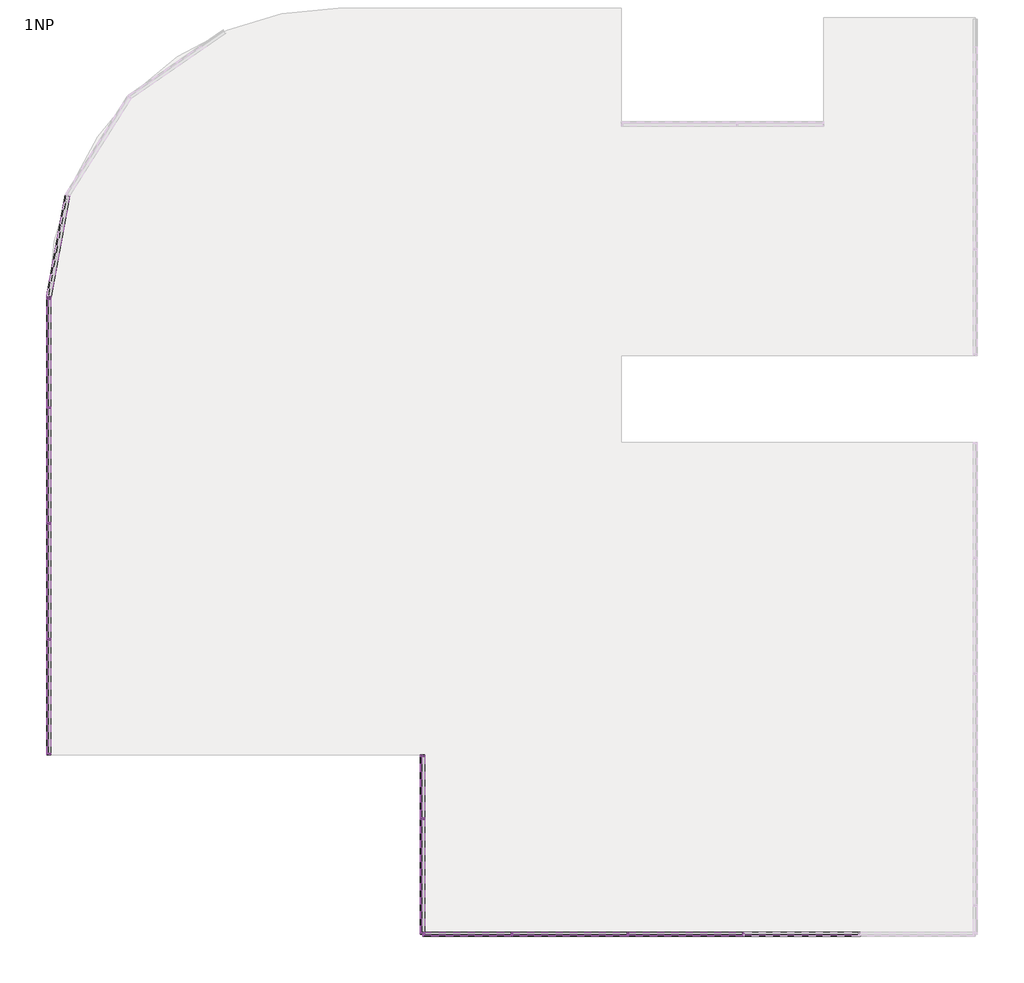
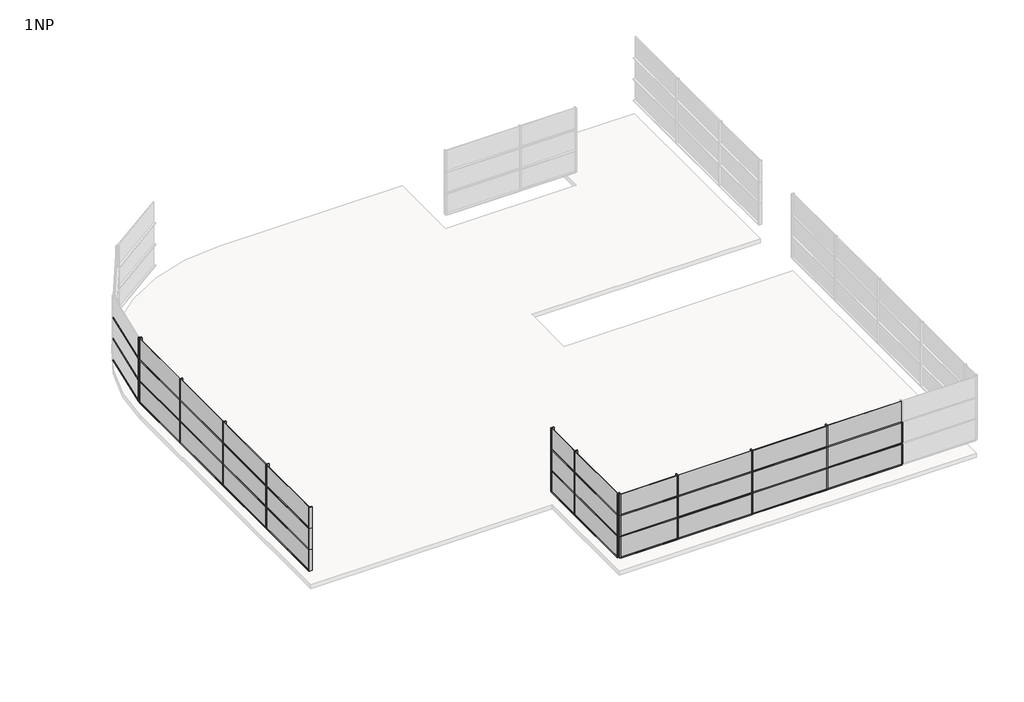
# One storey, part 1 of 4: 73 members, 30 plates.
"""IFC4 building model written with IfcOpenShell, lengths in millimetres."""

from ifc_helpers import new_model, si_unit, origin, place, context, project, spatial, transform, mapped, element, save
from components import rectangular_mullion_50_x_150mm_d99dc9be, rectangular_mullion_50_x_150mm_6588f46c, rectangular_mullion_50_x_150mm_a037c29c, rectangular_mullion_50_x_150mm_c2546fd4, rectangular_mullion_50_x_150mm_cd873b1a, rectangular_mullion_50_x_150mm_642c3999, rectangular_mullion_50_x_150mm_d9fe8572, rectangular_mullion_50_x_150mm_f56f8a9a, system_panel_glazed_8e9402eb, system_panel_glazed_89ac83a7, system_panel_glazed_2dc425e2, system_panel_glazed_da5fadb4, system_panel_glazed_3a708ec0

model = new_model("IFC4")

# Units and contexts
model_context = context("Model", 3, world=origin())
ifc_project = project(units=[si_unit("LENGTHUNIT", "METRE", prefix="MILLI")], contexts=[model_context])

# Site, building, storey
site = spatial("IfcSite", under=ifc_project)
building = spatial("IfcBuilding", under=site)
storey = spatial("IfcBuildingStorey", under=building, Name="1NP", Elevation=4000.0)

# Members
placement = place(None, origin())
rectangular_mullion_50_x_150mm_shape = rectangular_mullion_50_x_150mm_d99dc9be(model_context)
element("IfcMember", 1, ObjectType="Rectangular Mullion : 50 x 150mm", at=placement, inside=storey, context=model_context, shape_type="MappedRepresentation", body=[
    mapped(rectangular_mullion_50_x_150mm_shape, transform((9503.2660975, -23624.0160434, 6000.0), x_axis=(-1.0, 0.0, 0.0), y_axis=(0.0, -1.0, 0.0), z_axis=(0.0, 0.0, 1.0))),
])
element("IfcMember", 2, ObjectType="Rectangular Mullion : 50 x 150mm", at=placement, inside=storey, context=model_context, shape_type="MappedRepresentation", body=[
    mapped(rectangular_mullion_50_x_150mm_shape, transform((9503.2660975, -23624.0160434, 7200.0), x_axis=(-1.0, 0.0, 0.0), y_axis=(0.0, -1.0, 0.0), z_axis=(0.0, 0.0, 1.0))),
])
element("IfcMember", 3, ObjectType="Rectangular Mullion : 50 x 150mm", at=placement, inside=storey, context=model_context, shape_type="MappedRepresentation", body=[
    mapped(rectangular_mullion_50_x_150mm_shape, transform((5503.2660975, -23624.0160434, 6000.0), x_axis=(-1.0, 0.0, 0.0), y_axis=(0.0, -1.0, 0.0), z_axis=(0.0, 0.0, 1.0))),
])
element("IfcMember", 4, ObjectType="Rectangular Mullion : 50 x 150mm", at=placement, inside=storey, context=model_context, shape_type="MappedRepresentation", body=[
    mapped(rectangular_mullion_50_x_150mm_shape, transform((5503.2660975, -23624.0160434, 7200.0), x_axis=(-1.0, 0.0, 0.0), y_axis=(0.0, -1.0, 0.0), z_axis=(0.0, 0.0, 1.0))),
])
element("IfcMember", 5, ObjectType="Rectangular Mullion : 50 x 150mm", at=placement, inside=storey, context=model_context, shape_type="MappedRepresentation", body=[
    mapped(rectangular_mullion_50_x_150mm_shape, transform((5503.2660975, -23624.0160434, 8400.0), x_axis=(-1.0, 0.0, 0.0), y_axis=(0.0, -1.0, 0.0), z_axis=(0.0, 0.0, 1.0))),
])
element("IfcMember", 6, ObjectType="Rectangular Mullion : 50 x 150mm", at=placement, inside=storey, context=model_context, shape_type="MappedRepresentation", body=[
    mapped(rectangular_mullion_50_x_150mm_shape, transform((1503.2660975, -23624.0160434, 6000.0), x_axis=(-1.0, 0.0, 0.0), y_axis=(0.0, -1.0, 0.0), z_axis=(0.0, 0.0, 1.0))),
])
element("IfcMember", 7, ObjectType="Rectangular Mullion : 50 x 150mm", at=placement, inside=storey, context=model_context, shape_type="MappedRepresentation", body=[
    mapped(rectangular_mullion_50_x_150mm_shape, transform((1503.2660975, -23624.0160434, 7200.0), x_axis=(-1.0, 0.0, 0.0), y_axis=(0.0, -1.0, 0.0), z_axis=(0.0, 0.0, 1.0))),
])
element("IfcMember", 8, ObjectType="Rectangular Mullion : 50 x 150mm", at=placement, inside=storey, context=model_context, shape_type="MappedRepresentation", body=[
    mapped(rectangular_mullion_50_x_150mm_shape, transform((1503.2660975, -23624.0160434, 8400.0), x_axis=(-1.0, 0.0, 0.0), y_axis=(0.0, -1.0, 0.0), z_axis=(0.0, 0.0, 1.0))),
])
element("IfcMember", 9, ObjectType="Rectangular Mullion : 50 x 150mm", at=placement, inside=storey, context=model_context, shape_type="MappedRepresentation", body=[
    mapped(rectangular_mullion_50_x_150mm_shape, transform((-2496.7339025, -23624.0160434, 6000.0), x_axis=(-1.0, 0.0, 0.0), y_axis=(0.0, -1.0, 0.0), z_axis=(0.0, 0.0, 1.0))),
])
element("IfcMember", 10, ObjectType="Rectangular Mullion : 50 x 150mm", at=placement, inside=storey, context=model_context, shape_type="MappedRepresentation", body=[
    mapped(rectangular_mullion_50_x_150mm_shape, transform((-2496.7339025, -23624.0160434, 7200.0), x_axis=(-1.0, 0.0, 0.0), y_axis=(0.0, -1.0, 0.0), z_axis=(0.0, 0.0, 1.0))),
])
element("IfcMember", 11, ObjectType="Rectangular Mullion : 50 x 150mm", at=placement, inside=storey, context=model_context, shape_type="MappedRepresentation", body=[
    mapped(rectangular_mullion_50_x_150mm_shape, transform((-2496.7339025, -23624.0160434, 8400.0), x_axis=(-1.0, 0.0, 0.0), y_axis=(0.0, -1.0, 0.0), z_axis=(0.0, 0.0, 1.0))),
])
element("IfcMember", 12, ObjectType="Rectangular Mullion : 50 x 150mm", at=placement, inside=storey, context=model_context, shape_type="MappedRepresentation", body=[
    mapped(rectangular_mullion_50_x_150mm_shape, transform((-5587.173406, -19624.0160434, 6000.0), x_axis=(0.0, 1.0, 0.0), y_axis=(-1.0, 0.0, 0.0), z_axis=(0.0, 0.0, 1.0))),
])
element("IfcMember", 13, ObjectType="Rectangular Mullion : 50 x 150mm", at=placement, inside=storey, context=model_context, shape_type="MappedRepresentation", body=[
    mapped(rectangular_mullion_50_x_150mm_shape, transform((-5587.173406, -19624.0160434, 7200.0), x_axis=(0.0, 1.0, 0.0), y_axis=(-1.0, 0.0, 0.0), z_axis=(0.0, 0.0, 1.0))),
])
element("IfcMember", 14, ObjectType="Rectangular Mullion : 50 x 150mm", at=placement, inside=storey, context=model_context, shape_type="MappedRepresentation", body=[
    mapped(rectangular_mullion_50_x_150mm_shape, transform((-5587.173406, -19624.0160434, 8400.0), x_axis=(0.0, 1.0, 0.0), y_axis=(-1.0, 0.0, 0.0), z_axis=(0.0, 0.0, 1.0))),
])
element("IfcMember", 15, ObjectType="Rectangular Mullion : 50 x 150mm", at=placement, inside=storey, context=model_context, shape_type="MappedRepresentation", body=[
    mapped(rectangular_mullion_50_x_150mm_shape, transform((-18496.7339025, -13423.5291324, 6000.0), x_axis=(0.0, 1.0, 0.0), y_axis=(-1.0, 0.0, 0.0), z_axis=(0.0, 0.0, 1.0))),
])
element("IfcMember", 16, ObjectType="Rectangular Mullion : 50 x 150mm", at=placement, inside=storey, context=model_context, shape_type="MappedRepresentation", body=[
    mapped(rectangular_mullion_50_x_150mm_shape, transform((-18496.7339025, -13423.5291324, 7200.0), x_axis=(0.0, 1.0, 0.0), y_axis=(-1.0, 0.0, 0.0), z_axis=(0.0, 0.0, 1.0))),
])
element("IfcMember", 17, ObjectType="Rectangular Mullion : 50 x 150mm", at=placement, inside=storey, context=model_context, shape_type="MappedRepresentation", body=[
    mapped(rectangular_mullion_50_x_150mm_shape, transform((-18496.7339025, -13423.5291324, 8400.0), x_axis=(0.0, 1.0, 0.0), y_axis=(-1.0, 0.0, 0.0), z_axis=(0.0, 0.0, 1.0))),
])
element("IfcMember", 18, ObjectType="Rectangular Mullion : 50 x 150mm", at=placement, inside=storey, context=model_context, shape_type="MappedRepresentation", body=[
    mapped(rectangular_mullion_50_x_150mm_shape, transform((-18496.7339025, -9423.5291324, 6000.0), x_axis=(0.0, 1.0, 0.0), y_axis=(-1.0, 0.0, 0.0), z_axis=(0.0, 0.0, 1.0))),
])
element("IfcMember", 19, ObjectType="Rectangular Mullion : 50 x 150mm", at=placement, inside=storey, context=model_context, shape_type="MappedRepresentation", body=[
    mapped(rectangular_mullion_50_x_150mm_shape, transform((-18496.7339025, -9423.5291324, 7200.0), x_axis=(0.0, 1.0, 0.0), y_axis=(-1.0, 0.0, 0.0), z_axis=(0.0, 0.0, 1.0))),
])
element("IfcMember", 20, ObjectType="Rectangular Mullion : 50 x 150mm", at=placement, inside=storey, context=model_context, shape_type="MappedRepresentation", body=[
    mapped(rectangular_mullion_50_x_150mm_shape, transform((-18496.7339025, -9423.5291324, 8400.0), x_axis=(0.0, 1.0, 0.0), y_axis=(-1.0, 0.0, 0.0), z_axis=(0.0, 0.0, 1.0))),
])
element("IfcMember", 21, ObjectType="Rectangular Mullion : 50 x 150mm", at=placement, inside=storey, context=model_context, shape_type="MappedRepresentation", body=[
    mapped(rectangular_mullion_50_x_150mm_shape, transform((-18496.7339025, -5423.5291324, 6000.0), x_axis=(0.0, 1.0, 0.0), y_axis=(-1.0, 0.0, 0.0), z_axis=(0.0, 0.0, 1.0))),
])
element("IfcMember", 22, ObjectType="Rectangular Mullion : 50 x 150mm", at=placement, inside=storey, context=model_context, shape_type="MappedRepresentation", body=[
    mapped(rectangular_mullion_50_x_150mm_shape, transform((-18496.7339025, -5423.5291324, 7200.0), x_axis=(0.0, 1.0, 0.0), y_axis=(-1.0, 0.0, 0.0), z_axis=(0.0, 0.0, 1.0))),
])
element("IfcMember", 23, ObjectType="Rectangular Mullion : 50 x 150mm", at=placement, inside=storey, context=model_context, shape_type="MappedRepresentation", body=[
    mapped(rectangular_mullion_50_x_150mm_shape, transform((-18496.7339025, -5423.5291324, 8400.0), x_axis=(0.0, 1.0, 0.0), y_axis=(-1.0, 0.0, 0.0), z_axis=(0.0, 0.0, 1.0))),
])
rectangular_mullion_50_x_150mm_2_shape = rectangular_mullion_50_x_150mm_6588f46c(model_context)
element("IfcMember", 24, ObjectType="Rectangular Mullion : 50 x 150mm", at=placement, inside=storey, context=model_context, shape_type="MappedRepresentation", body=[
    mapped(rectangular_mullion_50_x_150mm_2_shape, transform((-5587.173406, -23624.0160434, 6000.0), x_axis=(-1.0, 0.0, 0.0), y_axis=(0.0, -1.0, 0.0), z_axis=(0.0, 0.0, 1.0))),
])
element("IfcMember", 25, ObjectType="Rectangular Mullion : 50 x 150mm", at=placement, inside=storey, context=model_context, shape_type="MappedRepresentation", body=[
    mapped(rectangular_mullion_50_x_150mm_2_shape, transform((-5587.173406, -23624.0160434, 7200.0), x_axis=(-1.0, 0.0, 0.0), y_axis=(0.0, -1.0, 0.0), z_axis=(0.0, 0.0, 1.0))),
])
element("IfcMember", 26, ObjectType="Rectangular Mullion : 50 x 150mm", at=placement, inside=storey, context=model_context, shape_type="MappedRepresentation", body=[
    mapped(rectangular_mullion_50_x_150mm_2_shape, transform((-5587.173406, -23624.0160434, 8400.0), x_axis=(-1.0, 0.0, 0.0), y_axis=(0.0, -1.0, 0.0), z_axis=(0.0, 0.0, 1.0))),
])
element("IfcMember", 27, ObjectType="Rectangular Mullion : 50 x 150mm", at=placement, inside=storey, context=model_context, shape_type="MappedRepresentation", body=[
    mapped(rectangular_mullion_50_x_150mm_2_shape, transform((-5587.173406, -17423.5291324, 6000.0), x_axis=(0.0, 1.0, 0.0), y_axis=(-1.0, 0.0, 0.0), z_axis=(0.0, 0.0, 1.0))),
])
element("IfcMember", 28, ObjectType="Rectangular Mullion : 50 x 150mm", at=placement, inside=storey, context=model_context, shape_type="MappedRepresentation", body=[
    mapped(rectangular_mullion_50_x_150mm_2_shape, transform((-5587.173406, -17423.5291324, 7200.0), x_axis=(0.0, 1.0, 0.0), y_axis=(-1.0, 0.0, 0.0), z_axis=(0.0, 0.0, 1.0))),
])
element("IfcMember", 29, ObjectType="Rectangular Mullion : 50 x 150mm", at=placement, inside=storey, context=model_context, shape_type="MappedRepresentation", body=[
    mapped(rectangular_mullion_50_x_150mm_2_shape, transform((-5587.173406, -17423.5291324, 8400.0), x_axis=(0.0, 1.0, 0.0), y_axis=(-1.0, 0.0, 0.0), z_axis=(0.0, 0.0, 1.0))),
])
element("IfcMember", 30, ObjectType="Rectangular Mullion : 50 x 150mm", at=placement, inside=storey, context=model_context, shape_type="MappedRepresentation", body=[
    mapped(rectangular_mullion_50_x_150mm_2_shape, transform((-18496.7339025, -1624.0160434, 6000.0), x_axis=(0.0, 1.0, 0.0), y_axis=(-1.0, 0.0, 0.0), z_axis=(0.0, 0.0, 1.0))),
])
element("IfcMember", 31, ObjectType="Rectangular Mullion : 50 x 150mm", at=placement, inside=storey, context=model_context, shape_type="MappedRepresentation", body=[
    mapped(rectangular_mullion_50_x_150mm_2_shape, transform((-18496.7339025, -1624.0160434, 7200.0), x_axis=(0.0, 1.0, 0.0), y_axis=(-1.0, 0.0, 0.0), z_axis=(0.0, 0.0, 1.0))),
])
element("IfcMember", 32, ObjectType="Rectangular Mullion : 50 x 150mm", at=placement, inside=storey, context=model_context, shape_type="MappedRepresentation", body=[
    mapped(rectangular_mullion_50_x_150mm_2_shape, transform((-18496.7339025, -1624.0160434, 8400.0), x_axis=(0.0, 1.0, 0.0), y_axis=(-1.0, 0.0, 0.0), z_axis=(0.0, 0.0, 1.0))),
])
rectangular_mullion_50_x_150mm_3_shape = rectangular_mullion_50_x_150mm_a037c29c(model_context)
element("IfcMember", 33, ObjectType="Rectangular Mullion : 50 x 150mm", at=placement, inside=storey, context=model_context, shape_type="MappedRepresentation", body=[
    mapped(rectangular_mullion_50_x_150mm_3_shape, transform((9478.2660975, -23624.0160434, 4800.0), x_axis=(0.0, 0.0, 1.0), y_axis=(0.0, -1.0, 0.0), z_axis=(1.0, 0.0, 0.0))),
])
element("IfcMember", 34, ObjectType="Rectangular Mullion : 50 x 150mm", at=placement, inside=storey, context=model_context, shape_type="MappedRepresentation", body=[
    mapped(rectangular_mullion_50_x_150mm_3_shape, transform((5478.2660975, -23624.0160434, 4800.0), x_axis=(0.0, 0.0, 1.0), y_axis=(0.0, -1.0, 0.0), z_axis=(1.0, 0.0, 0.0))),
])
element("IfcMember", 35, ObjectType="Rectangular Mullion : 50 x 150mm", at=placement, inside=storey, context=model_context, shape_type="MappedRepresentation", body=[
    mapped(rectangular_mullion_50_x_150mm_3_shape, transform((1478.2660975, -23624.0160434, 4800.0), x_axis=(0.0, 0.0, 1.0), y_axis=(0.0, -1.0, 0.0), z_axis=(1.0, 0.0, 0.0))),
])
element("IfcMember", 36, ObjectType="Rectangular Mullion : 50 x 150mm", at=placement, inside=storey, context=model_context, shape_type="MappedRepresentation", body=[
    mapped(rectangular_mullion_50_x_150mm_3_shape, transform((9478.2660975, -23624.0160434, 6000.0), x_axis=(0.0, 0.0, 1.0), y_axis=(0.0, -1.0, 0.0), z_axis=(1.0, 0.0, 0.0))),
])
element("IfcMember", 37, ObjectType="Rectangular Mullion : 50 x 150mm", at=placement, inside=storey, context=model_context, shape_type="MappedRepresentation", body=[
    mapped(rectangular_mullion_50_x_150mm_3_shape, transform((5478.2660975, -23624.0160434, 6000.0), x_axis=(0.0, 0.0, 1.0), y_axis=(0.0, -1.0, 0.0), z_axis=(1.0, 0.0, 0.0))),
])
element("IfcMember", 38, ObjectType="Rectangular Mullion : 50 x 150mm", at=placement, inside=storey, context=model_context, shape_type="MappedRepresentation", body=[
    mapped(rectangular_mullion_50_x_150mm_3_shape, transform((1478.2660975, -23624.0160434, 6000.0), x_axis=(0.0, 0.0, 1.0), y_axis=(0.0, -1.0, 0.0), z_axis=(1.0, 0.0, 0.0))),
])
element("IfcMember", 39, ObjectType="Rectangular Mullion : 50 x 150mm", at=placement, inside=storey, context=model_context, shape_type="MappedRepresentation", body=[
    mapped(rectangular_mullion_50_x_150mm_3_shape, transform((5478.2660975, -23624.0160434, 7200.0), x_axis=(0.0, 0.0, 1.0), y_axis=(0.0, -1.0, 0.0), z_axis=(1.0, 0.0, 0.0))),
])
element("IfcMember", 40, ObjectType="Rectangular Mullion : 50 x 150mm", at=placement, inside=storey, context=model_context, shape_type="MappedRepresentation", body=[
    mapped(rectangular_mullion_50_x_150mm_3_shape, transform((1478.2660975, -23624.0160434, 7200.0), x_axis=(0.0, 0.0, 1.0), y_axis=(0.0, -1.0, 0.0), z_axis=(1.0, 0.0, 0.0))),
])
element("IfcMember", 41, ObjectType="Rectangular Mullion : 50 x 150mm", at=placement, inside=storey, context=model_context, shape_type="MappedRepresentation", body=[
    mapped(rectangular_mullion_50_x_150mm_3_shape, transform((-18496.7339025, -9398.5291324, 4800.0), x_axis=(0.0, 0.0, 1.0), y_axis=(-1.0, 0.0, 0.0), z_axis=(0.0, -1.0, 0.0))),
])
element("IfcMember", 42, ObjectType="Rectangular Mullion : 50 x 150mm", at=placement, inside=storey, context=model_context, shape_type="MappedRepresentation", body=[
    mapped(rectangular_mullion_50_x_150mm_3_shape, transform((-18496.7339025, -13398.5291324, 6000.0), x_axis=(0.0, 0.0, 1.0), y_axis=(-1.0, 0.0, 0.0), z_axis=(0.0, -1.0, 0.0))),
])
element("IfcMember", 43, ObjectType="Rectangular Mullion : 50 x 150mm", at=placement, inside=storey, context=model_context, shape_type="MappedRepresentation", body=[
    mapped(rectangular_mullion_50_x_150mm_3_shape, transform((-18496.7339025, -9398.5291324, 6000.0), x_axis=(0.0, 0.0, 1.0), y_axis=(-1.0, 0.0, 0.0), z_axis=(0.0, -1.0, 0.0))),
])
element("IfcMember", 44, ObjectType="Rectangular Mullion : 50 x 150mm", at=placement, inside=storey, context=model_context, shape_type="MappedRepresentation", body=[
    mapped(rectangular_mullion_50_x_150mm_3_shape, transform((-18496.7339025, -13398.5291324, 7200.0), x_axis=(0.0, 0.0, 1.0), y_axis=(-1.0, 0.0, 0.0), z_axis=(0.0, -1.0, 0.0))),
])
element("IfcMember", 45, ObjectType="Rectangular Mullion : 50 x 150mm", at=placement, inside=storey, context=model_context, shape_type="MappedRepresentation", body=[
    mapped(rectangular_mullion_50_x_150mm_3_shape, transform((-18496.7339025, -9398.5291324, 7200.0), x_axis=(0.0, 0.0, 1.0), y_axis=(-1.0, 0.0, 0.0), z_axis=(0.0, -1.0, 0.0))),
])
element("IfcMember", 46, ObjectType="Rectangular Mullion : 50 x 150mm", at=placement, inside=storey, context=model_context, shape_type="MappedRepresentation", body=[
    mapped(rectangular_mullion_50_x_150mm_3_shape, transform((-18496.7339025, -13398.5291324, 4800.0), x_axis=(0.0, 0.0, 1.0), y_axis=(-1.0, 0.0, 0.0), z_axis=(0.0, -1.0, 0.0))),
])
rectangular_mullion_50_x_150mm_4_shape = rectangular_mullion_50_x_150mm_c2546fd4(model_context)
element("IfcMember", 47, ObjectType="Rectangular Mullion : 50 x 150mm", at=placement, inside=storey, context=model_context, shape_type="MappedRepresentation", body=[
    mapped(rectangular_mullion_50_x_150mm_4_shape, transform((-5587.173406, -23574.0160434, 4800.0), x_axis=(0.0, 0.0, 1.0), y_axis=(-1.0, 0.0, 0.0), z_axis=(0.0, -1.0, 0.0))),
])
element("IfcMember", 48, ObjectType="Rectangular Mullion : 50 x 150mm", at=placement, inside=storey, context=model_context, shape_type="MappedRepresentation", body=[
    mapped(rectangular_mullion_50_x_150mm_4_shape, transform((-5587.173406, -23574.0160434, 6000.0), x_axis=(0.0, 0.0, 1.0), y_axis=(-1.0, 0.0, 0.0), z_axis=(0.0, -1.0, 0.0))),
])
element("IfcMember", 49, ObjectType="Rectangular Mullion : 50 x 150mm", at=placement, inside=storey, context=model_context, shape_type="MappedRepresentation", body=[
    mapped(rectangular_mullion_50_x_150mm_4_shape, transform((-5587.173406, -23574.0160434, 7200.0), x_axis=(0.0, 0.0, 1.0), y_axis=(-1.0, 0.0, 0.0), z_axis=(0.0, -1.0, 0.0))),
])
element("IfcMember", 50, ObjectType="Rectangular Mullion : 50 x 150mm", at=placement, inside=storey, context=model_context, shape_type="MappedRepresentation", body=[
    mapped(rectangular_mullion_50_x_150mm_4_shape, transform((-18496.7339025, -17373.5291324, 6000.0), x_axis=(0.0, 0.0, 1.0), y_axis=(-1.0, 0.0, 0.0), z_axis=(0.0, -1.0, 0.0))),
])
element("IfcMember", 51, ObjectType="Rectangular Mullion : 50 x 150mm", at=placement, inside=storey, context=model_context, shape_type="MappedRepresentation", body=[
    mapped(rectangular_mullion_50_x_150mm_4_shape, transform((-18496.7339025, -17373.5291324, 7200.0), x_axis=(0.0, 0.0, 1.0), y_axis=(-1.0, 0.0, 0.0), z_axis=(0.0, -1.0, 0.0))),
])
element("IfcMember", 52, ObjectType="Rectangular Mullion : 50 x 150mm", at=placement, inside=storey, context=model_context, shape_type="MappedRepresentation", body=[
    mapped(rectangular_mullion_50_x_150mm_4_shape, transform((-18496.7339025, -17373.5291324, 4800.0), x_axis=(0.0, 0.0, 1.0), y_axis=(-1.0, 0.0, 0.0), z_axis=(0.0, -1.0, 0.0))),
])
element("IfcMember", 53, ObjectType="Rectangular Mullion : 50 x 150mm", at=placement, inside=storey, context=model_context, shape_type="MappedRepresentation", body=[
    mapped(rectangular_mullion_50_x_150mm_2_shape, transform((-5587.173406, -23624.0160434, 4800.0), x_axis=(0.0, -1.0, 0.0), y_axis=(-1.0, 0.0, 0.0), z_axis=(0.0, 0.0, -1.0))),
])
element("IfcMember", 54, ObjectType="Rectangular Mullion : 50 x 150mm", at=placement, inside=storey, context=model_context, shape_type="MappedRepresentation", body=[
    mapped(rectangular_mullion_50_x_150mm_2_shape, transform((-5587.173406, -23624.0160434, 6000.0), x_axis=(0.0, -1.0, 0.0), y_axis=(-1.0, 0.0, 0.0), z_axis=(0.0, 0.0, -1.0))),
])
element("IfcMember", 55, ObjectType="Rectangular Mullion : 50 x 150mm", at=placement, inside=storey, context=model_context, shape_type="MappedRepresentation", body=[
    mapped(rectangular_mullion_50_x_150mm_2_shape, transform((-5587.173406, -23624.0160434, 7200.0), x_axis=(0.0, -1.0, 0.0), y_axis=(-1.0, 0.0, 0.0), z_axis=(0.0, 0.0, -1.0))),
])
element("IfcMember", 56, ObjectType="Rectangular Mullion : 50 x 150mm", at=placement, inside=storey, context=model_context, shape_type="MappedRepresentation", body=[
    mapped(rectangular_mullion_50_x_150mm_2_shape, transform((-18496.7339025, -1624.0160434, 4800.0), x_axis=(-0.18033241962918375, -0.9836057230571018, 0.0), y_axis=(-0.9836057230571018, 0.18033241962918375, 0.0), z_axis=(0.0, 0.0, -1.0))),
])
element("IfcMember", 57, ObjectType="Rectangular Mullion : 50 x 150mm", at=placement, inside=storey, context=model_context, shape_type="MappedRepresentation", body=[
    mapped(rectangular_mullion_50_x_150mm_2_shape, transform((-18496.7339025, -1624.0160434, 6000.0), x_axis=(-0.18033241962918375, -0.9836057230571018, 0.0), y_axis=(-0.9836057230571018, 0.18033241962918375, 0.0), z_axis=(0.0, 0.0, -1.0))),
])
element("IfcMember", 58, ObjectType="Rectangular Mullion : 50 x 150mm", at=placement, inside=storey, context=model_context, shape_type="MappedRepresentation", body=[
    mapped(rectangular_mullion_50_x_150mm_2_shape, transform((-18496.7339025, -1624.0160434, 7200.0), x_axis=(-0.18033241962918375, -0.9836057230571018, 0.0), y_axis=(-0.9836057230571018, 0.18033241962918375, 0.0), z_axis=(0.0, 0.0, -1.0))),
])
element("IfcMember", 59, ObjectType="Rectangular Mullion : 50 x 150mm", at=placement, inside=storey, context=model_context, shape_type="MappedRepresentation", body=[
    mapped(rectangular_mullion_50_x_150mm_2_shape, transform((-18496.7339025, -17423.5291324, 4800.0), x_axis=(0.0, -1.0, 0.0), y_axis=(-1.0, 0.0, 0.0), z_axis=(0.0, 0.0, -1.0))),
])
element("IfcMember", 60, ObjectType="Rectangular Mullion : 50 x 150mm", at=placement, inside=storey, context=model_context, shape_type="MappedRepresentation", body=[
    mapped(rectangular_mullion_50_x_150mm_2_shape, transform((-18496.7339025, -17423.5291324, 6000.0), x_axis=(0.0, -1.0, 0.0), y_axis=(-1.0, 0.0, 0.0), z_axis=(0.0, 0.0, -1.0))),
])
element("IfcMember", 61, ObjectType="Rectangular Mullion : 50 x 150mm", at=placement, inside=storey, context=model_context, shape_type="MappedRepresentation", body=[
    mapped(rectangular_mullion_50_x_150mm_2_shape, transform((-18496.7339025, -17423.5291324, 7200.0), x_axis=(0.0, -1.0, 0.0), y_axis=(-1.0, 0.0, 0.0), z_axis=(0.0, 0.0, -1.0))),
])
rectangular_mullion_50_x_150mm_5_shape = rectangular_mullion_50_x_150mm_cd873b1a(model_context)
element("IfcMember", 62, ObjectType="Rectangular Mullion : 50 x 150mm", at=placement, inside=storey, context=model_context, shape_type="MappedRepresentation", body=[
    mapped(rectangular_mullion_50_x_150mm_5_shape, transform((-2521.7339025, -23624.0160434, 4800.0), x_axis=(0.0, 0.0, 1.0), y_axis=(0.0, -1.0, 0.0), z_axis=(1.0, 0.0, 0.0))),
])
element("IfcMember", 63, ObjectType="Rectangular Mullion : 50 x 150mm", at=placement, inside=storey, context=model_context, shape_type="MappedRepresentation", body=[
    mapped(rectangular_mullion_50_x_150mm_5_shape, transform((-2521.7339025, -23624.0160434, 6000.0), x_axis=(0.0, 0.0, 1.0), y_axis=(0.0, -1.0, 0.0), z_axis=(1.0, 0.0, 0.0))),
])
element("IfcMember", 64, ObjectType="Rectangular Mullion : 50 x 150mm", at=placement, inside=storey, context=model_context, shape_type="MappedRepresentation", body=[
    mapped(rectangular_mullion_50_x_150mm_5_shape, transform((-2521.7339025, -23624.0160434, 7200.0), x_axis=(0.0, 0.0, 1.0), y_axis=(0.0, -1.0, 0.0), z_axis=(1.0, 0.0, 0.0))),
])
rectangular_mullion_50_x_150mm_6_shape = rectangular_mullion_50_x_150mm_642c3999(model_context)
element("IfcMember", 65, ObjectType="Rectangular Mullion : 50 x 150mm", at=placement, inside=storey, context=model_context, shape_type="MappedRepresentation", body=[
    mapped(rectangular_mullion_50_x_150mm_6_shape, transform((-5587.173406, -19599.0160434, 4800.0), x_axis=(0.0, 0.0, 1.0), y_axis=(-1.0, 0.0, 0.0), z_axis=(0.0, -1.0, 0.0))),
])
element("IfcMember", 66, ObjectType="Rectangular Mullion : 50 x 150mm", at=placement, inside=storey, context=model_context, shape_type="MappedRepresentation", body=[
    mapped(rectangular_mullion_50_x_150mm_6_shape, transform((-5587.173406, -19599.0160434, 6000.0), x_axis=(0.0, 0.0, 1.0), y_axis=(-1.0, 0.0, 0.0), z_axis=(0.0, -1.0, 0.0))),
])
element("IfcMember", 67, ObjectType="Rectangular Mullion : 50 x 150mm", at=placement, inside=storey, context=model_context, shape_type="MappedRepresentation", body=[
    mapped(rectangular_mullion_50_x_150mm_6_shape, transform((-5587.173406, -19599.0160434, 7200.0), x_axis=(0.0, 0.0, 1.0), y_axis=(-1.0, 0.0, 0.0), z_axis=(0.0, -1.0, 0.0))),
])
rectangular_mullion_50_x_150mm_7_shape = rectangular_mullion_50_x_150mm_d9fe8572(model_context)
element("IfcMember", 68, ObjectType="Rectangular Mullion : 50 x 150mm", at=placement, inside=storey, context=model_context, shape_type="MappedRepresentation", body=[
    mapped(rectangular_mullion_50_x_150mm_7_shape, transform((-18487.7172815, -1574.8357573, 4800.0), x_axis=(0.0, 0.0, 1.0), y_axis=(-0.9836057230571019, 0.18033241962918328, 0.0), z_axis=(-0.18033241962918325, -0.9836057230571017, 0.0))),
])
element("IfcMember", 69, ObjectType="Rectangular Mullion : 50 x 150mm", at=placement, inside=storey, context=model_context, shape_type="MappedRepresentation", body=[
    mapped(rectangular_mullion_50_x_150mm_7_shape, transform((-18487.7172815, -1574.8357573, 6000.0), x_axis=(0.0, 0.0, 1.0), y_axis=(-0.9836057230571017, 0.1803324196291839, 0.0), z_axis=(-0.1803324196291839, -0.9836057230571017, 0.0))),
])
element("IfcMember", 70, ObjectType="Rectangular Mullion : 50 x 150mm", at=placement, inside=storey, context=model_context, shape_type="MappedRepresentation", body=[
    mapped(rectangular_mullion_50_x_150mm_7_shape, transform((-18487.7172815, -1574.8357573, 7200.0), x_axis=(0.0, 0.0, 1.0), y_axis=(-0.9836057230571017, 0.1803324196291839, 0.0), z_axis=(-0.1803324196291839, -0.9836057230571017, 0.0))),
])
rectangular_mullion_50_x_150mm_8_shape = rectangular_mullion_50_x_150mm_f56f8a9a(model_context)
element("IfcMember", 71, ObjectType="Rectangular Mullion : 50 x 150mm", at=placement, inside=storey, context=model_context, shape_type="MappedRepresentation", body=[
    mapped(rectangular_mullion_50_x_150mm_8_shape, transform((-18496.7339025, -5398.5291324, 4800.0), x_axis=(0.0, 0.0, 1.0), y_axis=(-1.0, 0.0, 0.0), z_axis=(0.0, -1.0, 0.0))),
])
element("IfcMember", 72, ObjectType="Rectangular Mullion : 50 x 150mm", at=placement, inside=storey, context=model_context, shape_type="MappedRepresentation", body=[
    mapped(rectangular_mullion_50_x_150mm_8_shape, transform((-18496.7339025, -5398.5291324, 6000.0), x_axis=(0.0, 0.0, 1.0), y_axis=(-1.0, 0.0, 0.0), z_axis=(0.0, -1.0, 0.0))),
])
element("IfcMember", 73, ObjectType="Rectangular Mullion : 50 x 150mm", at=placement, inside=storey, context=model_context, shape_type="MappedRepresentation", body=[
    mapped(rectangular_mullion_50_x_150mm_8_shape, transform((-18496.7339025, -5398.5291324, 7200.0), x_axis=(0.0, 0.0, 1.0), y_axis=(-1.0, 0.0, 0.0), z_axis=(0.0, -1.0, 0.0))),
])

# Plates
system_panel_glazed_shape = system_panel_glazed_8e9402eb(model_context)
element("IfcPlate", 74, ObjectType="System Panel : Glazed", at=placement, inside=storey, context=model_context, shape_type="MappedRepresentation", body=[
    mapped(system_panel_glazed_shape, transform((-5587.173406, -21611.5160434, 4825.0), x_axis=(0.0, 1.0, 0.0), y_axis=(-1.0, 0.0, 0.0), z_axis=(0.0, 0.0, 1.0))),
])
element("IfcPlate", 75, ObjectType="System Panel : Glazed", at=placement, inside=storey, context=model_context, shape_type="MappedRepresentation", body=[
    mapped(system_panel_glazed_shape, transform((-5587.173406, -21611.5160434, 6025.0), x_axis=(0.0, 1.0, 0.0), y_axis=(-1.0, 0.0, 0.0), z_axis=(0.0, 0.0, 1.0))),
])
element("IfcPlate", 76, ObjectType="System Panel : Glazed", at=placement, inside=storey, context=model_context, shape_type="MappedRepresentation", body=[
    mapped(system_panel_glazed_shape, transform((-5587.173406, -21611.5160434, 7225.0), x_axis=(0.0, 1.0, 0.0), y_axis=(-1.0, 0.0, 0.0), z_axis=(0.0, 0.0, 1.0))),
])
element("IfcPlate", 77, ObjectType="System Panel : Glazed", at=placement, inside=storey, context=model_context, shape_type="MappedRepresentation", body=[
    mapped(system_panel_glazed_shape, transform((-18496.7339025, -15411.0291324, 4825.0), x_axis=(0.0, 1.0, 0.0), y_axis=(-1.0, 0.0, 0.0), z_axis=(0.0, 0.0, 1.0))),
])
element("IfcPlate", 78, ObjectType="System Panel : Glazed", at=placement, inside=storey, context=model_context, shape_type="MappedRepresentation", body=[
    mapped(system_panel_glazed_shape, transform((-18496.7339025, -15411.0291324, 6025.0), x_axis=(0.0, 1.0, 0.0), y_axis=(-1.0, 0.0, 0.0), z_axis=(0.0, 0.0, 1.0))),
])
element("IfcPlate", 79, ObjectType="System Panel : Glazed", at=placement, inside=storey, context=model_context, shape_type="MappedRepresentation", body=[
    mapped(system_panel_glazed_shape, transform((-18496.7339025, -15411.0291324, 7225.0), x_axis=(0.0, 1.0, 0.0), y_axis=(-1.0, 0.0, 0.0), z_axis=(0.0, 0.0, 1.0))),
])
system_panel_glazed_2_shape = system_panel_glazed_89ac83a7(model_context)
element("IfcPlate", 80, ObjectType="System Panel : Glazed", at=placement, inside=storey, context=model_context, shape_type="MappedRepresentation", body=[
    mapped(system_panel_glazed_2_shape, transform((7503.2660975, -23624.0160434, 4825.0), x_axis=(-1.0, 0.0, 0.0), y_axis=(0.0, -1.0, 0.0), z_axis=(0.0, 0.0, 1.0))),
])
element("IfcPlate", 81, ObjectType="System Panel : Glazed", at=placement, inside=storey, context=model_context, shape_type="MappedRepresentation", body=[
    mapped(system_panel_glazed_2_shape, transform((3503.2660975, -23624.0160434, 4825.0), x_axis=(-1.0, 0.0, 0.0), y_axis=(0.0, -1.0, 0.0), z_axis=(0.0, 0.0, 1.0))),
])
element("IfcPlate", 82, ObjectType="System Panel : Glazed", at=placement, inside=storey, context=model_context, shape_type="MappedRepresentation", body=[
    mapped(system_panel_glazed_2_shape, transform((-496.7339025, -23624.0160434, 4825.0), x_axis=(-1.0, 0.0, 0.0), y_axis=(0.0, -1.0, 0.0), z_axis=(0.0, 0.0, 1.0))),
])
element("IfcPlate", 83, ObjectType="System Panel : Glazed", at=placement, inside=storey, context=model_context, shape_type="MappedRepresentation", body=[
    mapped(system_panel_glazed_2_shape, transform((7503.2660975, -23624.0160434, 6025.0), x_axis=(-1.0, 0.0, 0.0), y_axis=(0.0, -1.0, 0.0), z_axis=(0.0, 0.0, 1.0))),
])
element("IfcPlate", 84, ObjectType="System Panel : Glazed", at=placement, inside=storey, context=model_context, shape_type="MappedRepresentation", body=[
    mapped(system_panel_glazed_2_shape, transform((3503.2660975, -23624.0160434, 6025.0), x_axis=(-1.0, 0.0, 0.0), y_axis=(0.0, -1.0, 0.0), z_axis=(0.0, 0.0, 1.0))),
])
element("IfcPlate", 85, ObjectType="System Panel : Glazed", at=placement, inside=storey, context=model_context, shape_type="MappedRepresentation", body=[
    mapped(system_panel_glazed_2_shape, transform((-496.7339025, -23624.0160434, 6025.0), x_axis=(-1.0, 0.0, 0.0), y_axis=(0.0, -1.0, 0.0), z_axis=(0.0, 0.0, 1.0))),
])
element("IfcPlate", 86, ObjectType="System Panel : Glazed", at=placement, inside=storey, context=model_context, shape_type="MappedRepresentation", body=[
    mapped(system_panel_glazed_2_shape, transform((7503.2660975, -23624.0160434, 7225.0), x_axis=(-1.0, 0.0, 0.0), y_axis=(0.0, -1.0, 0.0), z_axis=(0.0, 0.0, 1.0))),
])
element("IfcPlate", 87, ObjectType="System Panel : Glazed", at=placement, inside=storey, context=model_context, shape_type="MappedRepresentation", body=[
    mapped(system_panel_glazed_2_shape, transform((3503.2660975, -23624.0160434, 7225.0), x_axis=(-1.0, 0.0, 0.0), y_axis=(0.0, -1.0, 0.0), z_axis=(0.0, 0.0, 1.0))),
])
element("IfcPlate", 88, ObjectType="System Panel : Glazed", at=placement, inside=storey, context=model_context, shape_type="MappedRepresentation", body=[
    mapped(system_panel_glazed_2_shape, transform((-496.7339025, -23624.0160434, 7225.0), x_axis=(-1.0, 0.0, 0.0), y_axis=(0.0, -1.0, 0.0), z_axis=(0.0, 0.0, 1.0))),
])
element("IfcPlate", 89, ObjectType="System Panel : Glazed", at=placement, inside=storey, context=model_context, shape_type="MappedRepresentation", body=[
    mapped(system_panel_glazed_2_shape, transform((-18496.7339025, -11423.5291324, 4825.0), x_axis=(0.0, 1.0, 0.0), y_axis=(-1.0, 0.0, 0.0), z_axis=(0.0, 0.0, 1.0))),
])
element("IfcPlate", 90, ObjectType="System Panel : Glazed", at=placement, inside=storey, context=model_context, shape_type="MappedRepresentation", body=[
    mapped(system_panel_glazed_2_shape, transform((-18496.7339025, -7423.5291324, 4825.0), x_axis=(0.0, 1.0, 0.0), y_axis=(-1.0, 0.0, 0.0), z_axis=(0.0, 0.0, 1.0))),
])
element("IfcPlate", 91, ObjectType="System Panel : Glazed", at=placement, inside=storey, context=model_context, shape_type="MappedRepresentation", body=[
    mapped(system_panel_glazed_2_shape, transform((-18496.7339025, -11423.5291324, 6025.0), x_axis=(0.0, 1.0, 0.0), y_axis=(-1.0, 0.0, 0.0), z_axis=(0.0, 0.0, 1.0))),
])
element("IfcPlate", 92, ObjectType="System Panel : Glazed", at=placement, inside=storey, context=model_context, shape_type="MappedRepresentation", body=[
    mapped(system_panel_glazed_2_shape, transform((-18496.7339025, -7423.5291324, 6025.0), x_axis=(0.0, 1.0, 0.0), y_axis=(-1.0, 0.0, 0.0), z_axis=(0.0, 0.0, 1.0))),
])
element("IfcPlate", 93, ObjectType="System Panel : Glazed", at=placement, inside=storey, context=model_context, shape_type="MappedRepresentation", body=[
    mapped(system_panel_glazed_2_shape, transform((-18496.7339025, -11423.5291324, 7225.0), x_axis=(0.0, 1.0, 0.0), y_axis=(-1.0, 0.0, 0.0), z_axis=(0.0, 0.0, 1.0))),
])
element("IfcPlate", 94, ObjectType="System Panel : Glazed", at=placement, inside=storey, context=model_context, shape_type="MappedRepresentation", body=[
    mapped(system_panel_glazed_2_shape, transform((-18496.7339025, -7423.5291324, 7225.0), x_axis=(0.0, 1.0, 0.0), y_axis=(-1.0, 0.0, 0.0), z_axis=(0.0, 0.0, 1.0))),
])
system_panel_glazed_3_shape = system_panel_glazed_2dc425e2(model_context)
element("IfcPlate", 95, ObjectType="System Panel : Glazed", at=placement, inside=storey, context=model_context, shape_type="MappedRepresentation", body=[
    mapped(system_panel_glazed_3_shape, transform((-4029.4536543, -23624.0160434, 4825.0), x_axis=(-1.0, 0.0, 0.0), y_axis=(0.0, -1.0, 0.0), z_axis=(0.0, 0.0, 1.0))),
])
element("IfcPlate", 96, ObjectType="System Panel : Glazed", at=placement, inside=storey, context=model_context, shape_type="MappedRepresentation", body=[
    mapped(system_panel_glazed_3_shape, transform((-4029.4536543, -23624.0160434, 6025.0), x_axis=(-1.0, 0.0, 0.0), y_axis=(0.0, -1.0, 0.0), z_axis=(0.0, 0.0, 1.0))),
])
element("IfcPlate", 97, ObjectType="System Panel : Glazed", at=placement, inside=storey, context=model_context, shape_type="MappedRepresentation", body=[
    mapped(system_panel_glazed_3_shape, transform((-4029.4536543, -23624.0160434, 7225.0), x_axis=(-1.0, 0.0, 0.0), y_axis=(0.0, -1.0, 0.0), z_axis=(0.0, 0.0, 1.0))),
])
system_panel_glazed_4_shape = system_panel_glazed_da5fadb4(model_context)
element("IfcPlate", 98, ObjectType="System Panel : Glazed", at=placement, inside=storey, context=model_context, shape_type="MappedRepresentation", body=[
    mapped(system_panel_glazed_4_shape, transform((-5587.173406, -18536.2725879, 4825.0), x_axis=(0.0, 1.0, 0.0), y_axis=(-1.0, 0.0, 0.0), z_axis=(0.0, 0.0, 1.0))),
])
element("IfcPlate", 99, ObjectType="System Panel : Glazed", at=placement, inside=storey, context=model_context, shape_type="MappedRepresentation", body=[
    mapped(system_panel_glazed_4_shape, transform((-5587.173406, -18536.2725879, 6025.0), x_axis=(0.0, 1.0, 0.0), y_axis=(-1.0, 0.0, 0.0), z_axis=(0.0, 0.0, 1.0))),
])
element("IfcPlate", 100, ObjectType="System Panel : Glazed", at=placement, inside=storey, context=model_context, shape_type="MappedRepresentation", body=[
    mapped(system_panel_glazed_4_shape, transform((-5587.173406, -18536.2725879, 7225.0), x_axis=(0.0, 1.0, 0.0), y_axis=(-1.0, 0.0, 0.0), z_axis=(0.0, 0.0, 1.0))),
])
system_panel_glazed_5_shape = system_panel_glazed_3a708ec0(model_context)
element("IfcPlate", 101, ObjectType="System Panel : Glazed", at=placement, inside=storey, context=model_context, shape_type="MappedRepresentation", body=[
    mapped(system_panel_glazed_5_shape, transform((-18496.7339025, -3536.2725879, 4825.0), x_axis=(0.0, 1.0, 0.0), y_axis=(-1.0, 0.0, 0.0), z_axis=(0.0, 0.0, 1.0))),
])
element("IfcPlate", 102, ObjectType="System Panel : Glazed", at=placement, inside=storey, context=model_context, shape_type="MappedRepresentation", body=[
    mapped(system_panel_glazed_5_shape, transform((-18496.7339025, -3536.2725879, 6025.0), x_axis=(0.0, 1.0, 0.0), y_axis=(-1.0, 0.0, 0.0), z_axis=(0.0, 0.0, 1.0))),
])
element("IfcPlate", 103, ObjectType="System Panel : Glazed", at=placement, inside=storey, context=model_context, shape_type="MappedRepresentation", body=[
    mapped(system_panel_glazed_5_shape, transform((-18496.7339025, -3536.2725879, 7225.0), x_axis=(0.0, 1.0, 0.0), y_axis=(-1.0, 0.0, 0.0), z_axis=(0.0, 0.0, 1.0))),
])

save(model, "model.ifc")
